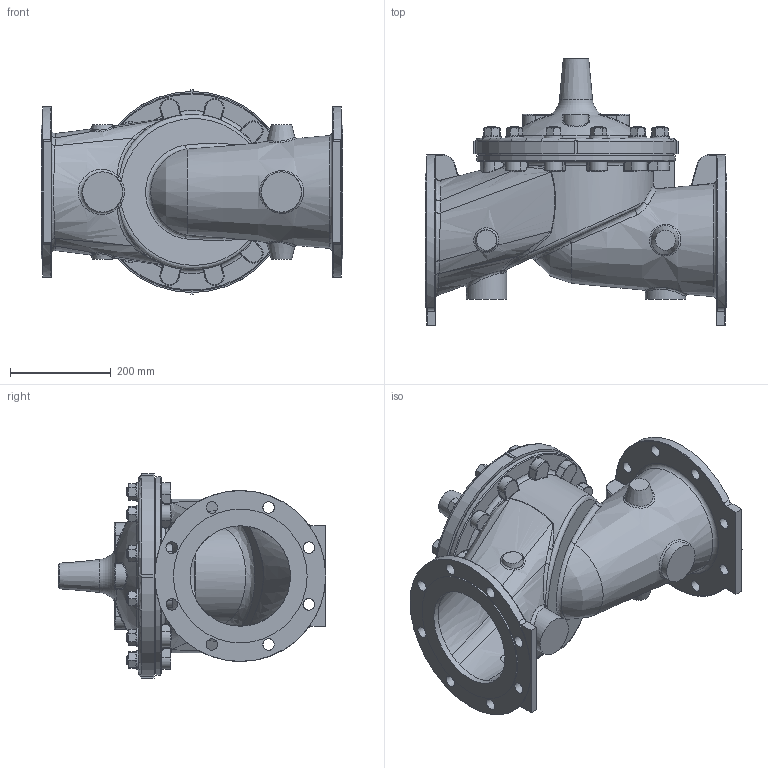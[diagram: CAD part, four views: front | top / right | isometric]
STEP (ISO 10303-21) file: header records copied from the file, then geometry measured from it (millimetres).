
FILE_DESCRIPTION(/* description */ (''),/* implementation_level */ '2;1');
FILE_NAME(/* name */ 'G:\Doc_Liberes\SymbolesCAD\Modeles_3D\FichierSTP\VanneDeBase\NGE200-16RF.stp',/* time_stamp */ '2023-08-17T11:16:41+02:00',/* author */ ('marc'),/* organization */ (''),/* preprocessor_version */ 'ST-DEVELOPER v18.1',/* originating_system */ 'Autodesk Inventor 2022',/* authorisation */ '');
FILE_SCHEMA (('AUTOMOTIVE_DESIGN { 1 0 10303 214 3 1 1 }'));
Products named in the file (1): NGE200_Simplifier_1
Bounding box: 600 x 532.07 x 406 mm (x, y, z)
Volume: 14023823.4 mm3; surface area: 1825692.5 mm2
Topology: 2 solids, 2 shells, 1405 faces, 3496 edges, 2145 vertices
Faces by surface type: cone 396, plane 370, bspline 265, cylinder 245, torus 126, sphere 3
Full cylindrical faces by diameter (mm): 19.05 x24, 22 x12, 23 x16, 37.287 x12, 55.6 x1, 80 x2, 167.83 x1, 195 x1, 200 x2, 200.28 x1, 200.3 x1, 266 x2, 340 x2, 387.05 x1, 387.3 x1, 394 x1
Entity records: 55366 total; most frequent: CARTESIAN_POINT 24185, ORIENTED_EDGE 6982, DIRECTION 6122, EDGE_CURVE 3491, AXIS2_PLACEMENT_3D 2787, VERTEX_POINT 2145, CIRCLE 1621, EDGE_LOOP 1522
